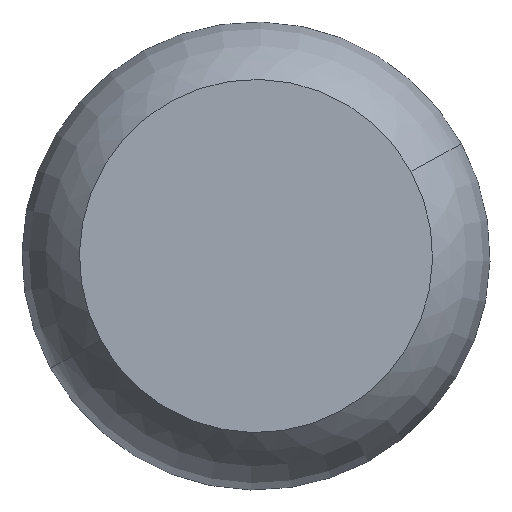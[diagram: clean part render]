
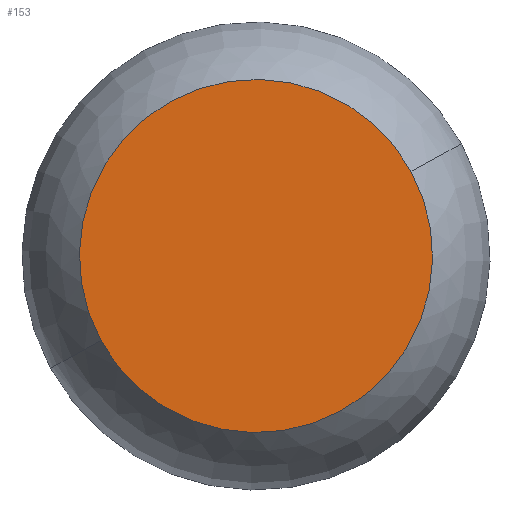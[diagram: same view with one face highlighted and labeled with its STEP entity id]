
A CAD part, front view. The second image highlights one B-rep face of the part: STEP entity #153.
In plain terms, the highlighted planar face has unit normal (0, -1, 0).
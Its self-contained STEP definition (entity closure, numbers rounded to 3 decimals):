
#66=CARTESIAN_POINT('Axis2P3D Location',(0.,0.,0.)) ;
#70=CARTESIAN_POINT('Vertex',(86.003,0.,46.984)) ;
#72=CARTESIAN_POINT('Vertex',(-86.003,0.,-46.984)) ;
#127=CARTESIAN_POINT('Axis2P3D Location',(0.,0.,0.)) ;
#144=CARTESIAN_POINT('Axis2P3D Location',(0.,0.,0.)) ;
#67=DIRECTION('Axis2P3D Direction',(0.,-1.,0.)) ;
#128=DIRECTION('Axis2P3D Direction',(0.,-1.,0.)) ;
#145=DIRECTION('Axis2P3D Direction',(0.,-1.,0.)) ;
#146=DIRECTION('Axis2P3D XDirection',(1.,0.,0.)) ;
#68=AXIS2_PLACEMENT_3D('Circle Axis2P3D',#66,#67,$) ;
#129=AXIS2_PLACEMENT_3D('Circle Axis2P3D',#127,#128,$) ;
#147=AXIS2_PLACEMENT_3D('Plane Axis2P3D',#144,#145,#146) ;
#150=ORIENTED_EDGE('',*,*,#74,.T.) ;
#151=ORIENTED_EDGE('',*,*,#131,.T.) ;
#153=ADVANCED_FACE('PartBody',(#152),#148,.T.) ;
#69=CIRCLE('generated circle',#68,98.) ;
#130=CIRCLE('generated circle',#129,98.) ;
#74=EDGE_CURVE('',#71,#73,#69,.T.) ;
#131=EDGE_CURVE('',#73,#71,#130,.T.) ;
#149=EDGE_LOOP('',(#150,#151)) ;
#152=FACE_OUTER_BOUND('',#149,.T.) ;
#148=PLANE('',#147) ;
#71=VERTEX_POINT('',#70) ;
#73=VERTEX_POINT('',#72) ;
